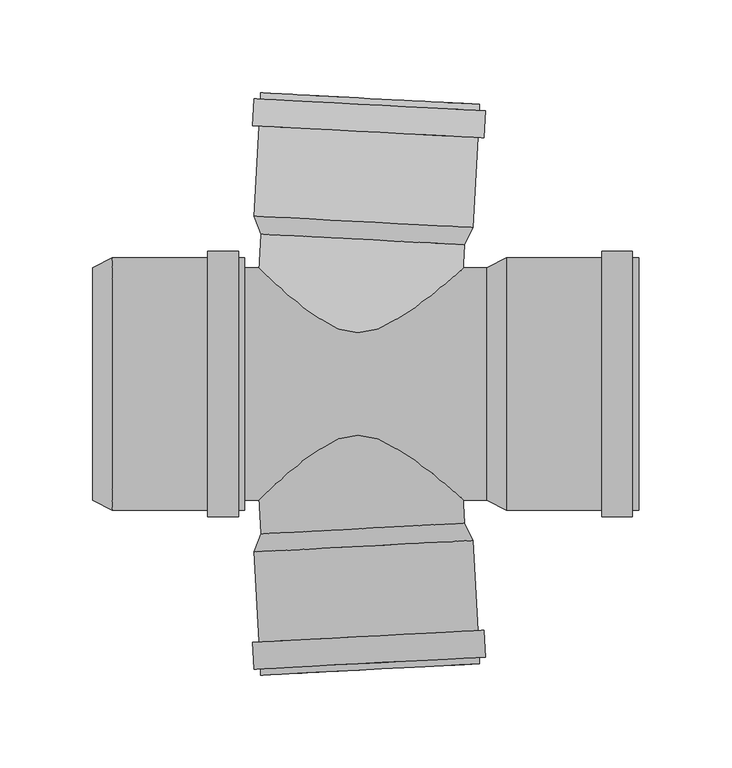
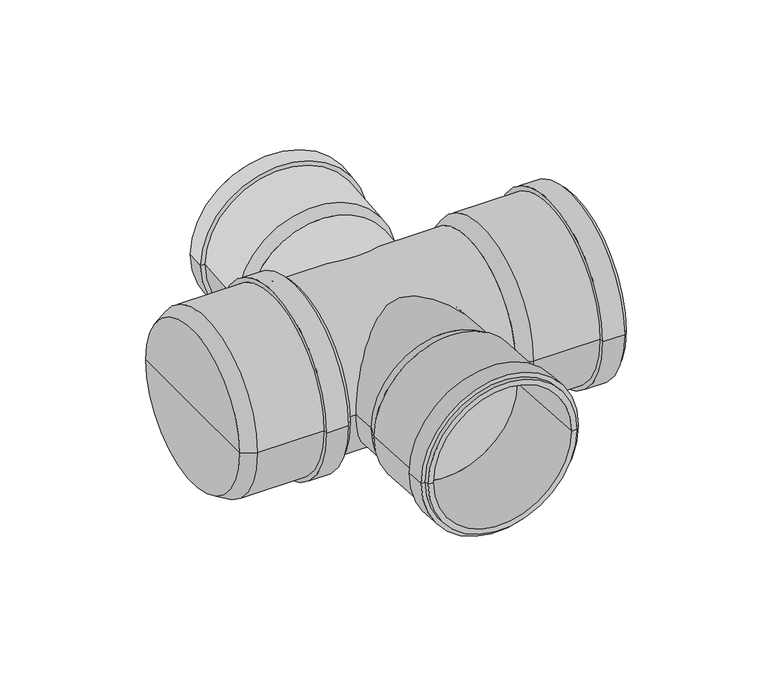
"""IFC4 building model written with IfcOpenShell, lengths in millimetres: pipe fitting geometry, pf_HTDA : pf_HTDA."""

from ifc_helpers import new_model, si_unit, point, frame, origin, origin_2d, place, context, project, spatial, polyline, circle_curve, trimmed, segment, composite_curve, outline, extrude, source, transform, mapped, element, save
from ifc_brep_helpers import plane_surface, cylinder_surface, revolved_surface, advanced_brep


def pipe_fitting_54cbae7a(model_context):
    return source(origin(), model_context, "Body", "SolidModel", [
        advanced_brep(
        [(59.006829, 75.0146261, 0.0), (-50.8424198, 80.7715813, 0.0), (-54.4396093, 90.4731393, 0.0), (63.5984017, 84.2870293, 0.0), (4.0822046, 77.8931037, 0.0), (67.0787428, 150.6958933, 0.0), (-50.9592682, 156.8820034, 0.0), (-46.8648872, 156.6674259, 0.0), (62.9843617, 150.9104708, 0.0), (66.9008005, 147.3005529, 0.0), (-51.1372105, 153.4866629, 0.0), (70.2961409, 147.1226107, 0.0), (-54.5325509, 153.6646052, 0.0), (69.5372696, 132.6424824, 0.0), (-55.2914223, 139.1844769, 0.0), (66.1419291, 132.8204247, 0.0), (-51.8960819, 139.0065347, 0.0), (59.5040206, 84.5016067, 0.0), (-50.3452282, 90.2585619, 0.0), (4.5793962, 87.3800843, 0.0)],
        [
            (0, 1, circle_curve(frame((4.0822046, 77.8931037, 0.0), z_axis=(0.05233595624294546, 0.9986295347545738, 0.0), x_axis=(-0.9986295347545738, 0.05233595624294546, 0.0)), 55.0)),
            (1, 2),
            (2, 3, circle_curve(frame((4.5793962, 87.3800843, 0.0), z_axis=(-0.05233595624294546, -0.9986295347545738, 0.0), x_axis=(-0.9986295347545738, 0.05233595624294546, 0.0)), 59.1)),
            (3, 0),
            (1, 0, circle_curve(frame((4.0822046, 77.8931037, 0.0), z_axis=(0.05233595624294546, 0.9986295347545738, 0.0), x_axis=(-0.9986295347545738, 0.05233595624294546, 0.0)), 55.0)),
            (3, 2, circle_curve(frame((4.5793962, 87.3800843, 0.0), z_axis=(-0.05233595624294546, -0.9986295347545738, 0.0), x_axis=(-0.9986295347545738, 0.05233595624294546, 0.0)), 59.1)),
            (4, 1),
            (0, 4),
            (5, 6, circle_curve(frame((8.0597373, 153.7889484, 0.0), z_axis=(0.05233595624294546, 0.9986295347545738, 0.0), x_axis=(-0.9986295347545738, 0.05233595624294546, 0.0)), 59.1)),
            (6, 7),
            (7, 8, circle_curve(frame((8.0597373, 153.7889484, 0.0), z_axis=(-0.05233595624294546, -0.9986295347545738, 0.0), x_axis=(-0.9986295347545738, 0.05233595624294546, 0.0)), 55.0)),
            (8, 5),
            (6, 5, circle_curve(frame((8.0597373, 153.7889484, 0.0), z_axis=(0.05233595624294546, 0.9986295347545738, 0.0), x_axis=(-0.9986295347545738, 0.05233595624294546, 0.0)), 59.1)),
            (8, 7, circle_curve(frame((8.0597373, 153.7889484, 0.0), z_axis=(-0.05233595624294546, -0.9986295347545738, 0.0), x_axis=(-0.9986295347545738, 0.05233595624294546, 0.0)), 55.0)),
            (9, 10, circle_curve(frame((7.881795, 150.3936079, 0.0), z_axis=(0.05233595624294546, 0.9986295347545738, 0.0), x_axis=(-0.9986295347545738, 0.05233595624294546, 0.0)), 59.1)),
            (10, 6),
            (5, 9),
            (10, 9, circle_curve(frame((7.881795, 150.3936079, 0.0), z_axis=(0.05233595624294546, 0.9986295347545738, 0.0), x_axis=(-0.9986295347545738, 0.05233595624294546, 0.0)), 59.1)),
            (11, 12, circle_curve(frame((7.881795, 150.3936079, 0.0), z_axis=(0.05233595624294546, 0.9986295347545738, 0.0), x_axis=(-0.9986295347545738, 0.05233595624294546, 0.0)), 62.5)),
            (12, 10),
            (9, 11),
            (12, 11, circle_curve(frame((7.881795, 150.3936079, 0.0), z_axis=(0.05233595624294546, 0.9986295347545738, 0.0), x_axis=(-0.9986295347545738, 0.05233595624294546, 0.0)), 62.5)),
            (13, 14, circle_curve(frame((7.1229236, 135.9134797, 0.0), z_axis=(0.05233595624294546, 0.9986295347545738, 0.0), x_axis=(-0.9986295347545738, 0.05233595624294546, 0.0)), 62.5)),
            (14, 12),
            (11, 13),
            (14, 13, circle_curve(frame((7.1229236, 135.9134797, 0.0), z_axis=(0.05233595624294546, 0.9986295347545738, 0.0), x_axis=(-0.9986295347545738, 0.05233595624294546, 0.0)), 62.5)),
            (15, 16, circle_curve(frame((7.1229236, 135.9134797, 0.0), z_axis=(0.05233595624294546, 0.9986295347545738, 0.0), x_axis=(-0.9986295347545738, 0.05233595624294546, 0.0)), 59.1)),
            (16, 14),
            (13, 15),
            (16, 15, circle_curve(frame((7.1229236, 135.9134797, 0.0), z_axis=(0.05233595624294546, 0.9986295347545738, 0.0), x_axis=(-0.9986295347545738, 0.05233595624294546, 0.0)), 59.1)),
            (2, 16),
            (15, 3),
            (17, 18, circle_curve(frame((4.5793962, 87.3800843, 0.0), z_axis=(0.05233595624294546, 0.9986295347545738, 0.0), x_axis=(-0.9986295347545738, 0.05233595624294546, 0.0)), 55.0)),
            (18, 19),
            (19, 17),
            (18, 17, circle_curve(frame((4.5793962, 87.3800843, 0.0), z_axis=(0.05233595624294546, 0.9986295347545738, 0.0), x_axis=(-0.9986295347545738, 0.05233595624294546, 0.0)), 55.0)),
            (7, 18),
            (17, 8),
        ],
        [
            revolved_surface(polyline([(-54.4396093, 90.4731393, 0.0), (-50.8424198, 80.7715813, 0.0)]), (4.0822046, 77.8931037, 0.0), (-0.05233595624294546, -0.9986295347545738, 0.0)),
            plane_surface(frame((4.0822046, 77.8931037, 0.0), z_axis=(-0.05233595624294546, -0.9986295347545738, 0.0), x_axis=(-0.9986295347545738, 0.05233595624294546, 0.0))),
            plane_surface(frame((8.0597373, 153.7889484, 0.0), z_axis=(0.05233595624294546, 0.9986295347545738, 0.0), x_axis=(-0.9986295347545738, 0.05233595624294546, 0.0))),
            cylinder_surface(frame((4.0822046, 77.8931037, 0.0), z_axis=(-0.05233595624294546, -0.9986295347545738, 0.0), x_axis=(-0.9986295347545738, 0.05233595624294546, 0.0)), 59.1),
            plane_surface(frame((7.881795, 150.3936079, 0.0), z_axis=(0.05233595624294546, 0.9986295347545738, 0.0), x_axis=(-0.9986295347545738, 0.05233595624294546, 0.0))),
            cylinder_surface(frame((4.0822046, 77.8931037, 0.0), z_axis=(-0.05233595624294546, -0.9986295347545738, 0.0), x_axis=(-0.9986295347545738, 0.05233595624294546, 0.0)), 62.5),
            plane_surface(frame((7.1229236, 135.9134797, 0.0), z_axis=(-0.05233595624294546, -0.9986295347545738, 0.0), x_axis=(-0.9986295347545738, 0.05233595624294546, 0.0))),
            plane_surface(frame((4.5793962, 87.3800843, 0.0), z_axis=(0.05233595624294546, 0.9986295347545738, 0.0), x_axis=(-0.9986295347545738, 0.05233595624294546, 0.0))),
            revolved_surface(polyline([(-50.34522822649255, 90.25856188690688, 0.0), (-46.86488713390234, 156.66742599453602, 0.0)]), (4.0822046, 77.8931037, 0.0), (-0.05233595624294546, -0.9986295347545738, 0.0)),
        ],
        [
            (0, [[1, 2, 3, 4]]),
            (0, [[5, -4, 6, -2]]),
            (1, [[7, -1, 8]]),
            (1, [[-8, -5, -7]]),
            (2, [[9, 10, 11, 12]]),
            (2, [[13, -12, 14, -10]]),
            (3, [[15, 16, -9, 17]]),
            (3, [[18, -17, -13, -16]]),
            (4, [[19, 20, -15, 21]]),
            (4, [[22, -21, -18, -20]]),
            (5, [[23, 24, -19, 25]]),
            (5, [[26, -25, -22, -24]]),
            (6, [[27, 28, -23, 29]]),
            (6, [[30, -29, -26, -28]]),
            (3, [[-3, 31, -27, 32]]),
            (3, [[-6, -32, -30, -31]]),
            (7, [[33, 34, 35]]),
            (7, [[36, -35, -34]]),
            (8, [[-11, 37, -33, 38]]),
            (8, [[-14, -38, -36, -37]]),
        ],
    ),
        advanced_brep(
        [(-50.8424198, -80.7715813, 0.0), (59.006829, -75.0146261, 0.0), (63.5984017, -84.2870293, 0.0), (-54.4396093, -90.4731393, 0.0), (4.0822046, -77.8931037, 0.0), (-50.9592682, -156.8820034, 0.0), (67.0787428, -150.6958933, 0.0), (62.9843617, -150.9104708, 0.0), (-46.8648872, -156.6674259, 0.0), (-51.1372105, -153.4866629, 0.0), (66.9008005, -147.3005529, 0.0), (-54.5325509, -153.6646052, 0.0), (70.2961409, -147.1226107, 0.0), (-55.2914223, -139.1844769, 0.0), (69.5372696, -132.6424824, 0.0), (-51.8960819, -139.0065347, 0.0), (66.1419291, -132.8204247, 0.0), (-50.3452282, -90.2585619, 0.0), (59.5040206, -84.5016067, 0.0), (4.5793962, -87.3800843, 0.0)],
        [
            (0, 1, circle_curve(frame((4.0822046, -77.8931037, 0.0), z_axis=(0.05233595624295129, -0.9986295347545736, 0.0), x_axis=(0.9986295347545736, 0.05233595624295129, 0.0)), 55.0)),
            (1, 2),
            (2, 3, circle_curve(frame((4.5793962, -87.3800843, 0.0), z_axis=(-0.05233595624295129, 0.9986295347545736, 0.0), x_axis=(0.9986295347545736, 0.05233595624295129, 0.0)), 59.1)),
            (3, 0),
            (1, 0, circle_curve(frame((4.0822046, -77.8931037, 0.0), z_axis=(0.05233595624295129, -0.9986295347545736, 0.0), x_axis=(0.9986295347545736, 0.05233595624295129, 0.0)), 55.0)),
            (3, 2, circle_curve(frame((4.5793962, -87.3800843, 0.0), z_axis=(-0.05233595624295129, 0.9986295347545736, 0.0), x_axis=(0.9986295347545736, 0.05233595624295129, 0.0)), 59.1)),
            (4, 1),
            (0, 4),
            (5, 6, circle_curve(frame((8.0597373, -153.7889484, 0.0), z_axis=(0.05233595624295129, -0.9986295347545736, 0.0), x_axis=(0.9986295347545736, 0.05233595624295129, 0.0)), 59.1)),
            (6, 7),
            (7, 8, circle_curve(frame((8.0597373, -153.7889484, 0.0), z_axis=(-0.05233595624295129, 0.9986295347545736, 0.0), x_axis=(0.9986295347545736, 0.05233595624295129, 0.0)), 55.0)),
            (8, 5),
            (6, 5, circle_curve(frame((8.0597373, -153.7889484, 0.0), z_axis=(0.05233595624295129, -0.9986295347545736, 0.0), x_axis=(0.9986295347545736, 0.05233595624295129, 0.0)), 59.1)),
            (8, 7, circle_curve(frame((8.0597373, -153.7889484, 0.0), z_axis=(-0.05233595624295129, 0.9986295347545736, 0.0), x_axis=(0.9986295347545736, 0.05233595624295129, 0.0)), 55.0)),
            (9, 10, circle_curve(frame((7.881795, -150.3936079, 0.0), z_axis=(0.05233595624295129, -0.9986295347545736, 0.0), x_axis=(0.9986295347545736, 0.05233595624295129, 0.0)), 59.1)),
            (10, 6),
            (5, 9),
            (10, 9, circle_curve(frame((7.881795, -150.3936079, 0.0), z_axis=(0.05233595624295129, -0.9986295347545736, 0.0), x_axis=(0.9986295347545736, 0.05233595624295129, 0.0)), 59.1)),
            (11, 12, circle_curve(frame((7.881795, -150.3936079, 0.0), z_axis=(0.05233595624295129, -0.9986295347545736, 0.0), x_axis=(0.9986295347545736, 0.05233595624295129, 0.0)), 62.5)),
            (12, 10),
            (9, 11),
            (12, 11, circle_curve(frame((7.881795, -150.3936079, 0.0), z_axis=(0.05233595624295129, -0.9986295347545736, 0.0), x_axis=(0.9986295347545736, 0.05233595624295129, 0.0)), 62.5)),
            (13, 14, circle_curve(frame((7.1229236, -135.9134797, 0.0), z_axis=(0.05233595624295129, -0.9986295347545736, 0.0), x_axis=(0.9986295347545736, 0.05233595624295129, 0.0)), 62.5)),
            (14, 12),
            (11, 13),
            (14, 13, circle_curve(frame((7.1229236, -135.9134797, 0.0), z_axis=(0.05233595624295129, -0.9986295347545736, 0.0), x_axis=(0.9986295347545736, 0.05233595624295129, 0.0)), 62.5)),
            (15, 16, circle_curve(frame((7.1229236, -135.9134797, 0.0), z_axis=(0.05233595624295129, -0.9986295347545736, 0.0), x_axis=(0.9986295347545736, 0.05233595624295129, 0.0)), 59.1)),
            (16, 14),
            (13, 15),
            (16, 15, circle_curve(frame((7.1229236, -135.9134797, 0.0), z_axis=(0.05233595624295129, -0.9986295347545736, 0.0), x_axis=(0.9986295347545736, 0.05233595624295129, 0.0)), 59.1)),
            (2, 16),
            (15, 3),
            (17, 18, circle_curve(frame((4.5793962, -87.3800843, 0.0), z_axis=(0.05233595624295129, -0.9986295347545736, 0.0), x_axis=(0.9986295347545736, 0.05233595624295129, 0.0)), 55.0)),
            (18, 19),
            (19, 17),
            (18, 17, circle_curve(frame((4.5793962, -87.3800843, 0.0), z_axis=(0.05233595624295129, -0.9986295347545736, 0.0), x_axis=(0.9986295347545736, 0.05233595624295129, 0.0)), 55.0)),
            (7, 18),
            (17, 8),
        ],
        [
            revolved_surface(polyline([(63.5984017, -84.2870293, 0.0), (59.006829, -75.0146261, 0.0)]), (4.0822046, -77.8931037, 0.0), (-0.05233595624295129, 0.9986295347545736, 0.0)),
            plane_surface(frame((4.0822046, -77.8931037, 0.0), z_axis=(-0.05233595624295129, 0.9986295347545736, 0.0), x_axis=(0.9986295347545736, 0.05233595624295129, 0.0))),
            plane_surface(frame((8.0597373, -153.7889484, 0.0), z_axis=(0.05233595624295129, -0.9986295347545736, 0.0), x_axis=(0.9986295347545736, 0.05233595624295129, 0.0))),
            cylinder_surface(frame((4.0822046, -77.8931037, 0.0), z_axis=(-0.05233595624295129, 0.9986295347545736, 0.0), x_axis=(0.9986295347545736, 0.05233595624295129, 0.0)), 59.1),
            plane_surface(frame((7.881795, -150.3936079, 0.0), z_axis=(0.05233595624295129, -0.9986295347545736, 0.0), x_axis=(0.9986295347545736, 0.05233595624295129, 0.0))),
            cylinder_surface(frame((4.0822046, -77.8931037, 0.0), z_axis=(-0.05233595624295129, 0.9986295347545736, 0.0), x_axis=(0.9986295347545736, 0.05233595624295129, 0.0)), 62.5),
            plane_surface(frame((7.1229236, -135.9134797, 0.0), z_axis=(-0.05233595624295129, 0.9986295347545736, 0.0), x_axis=(0.9986295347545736, 0.05233595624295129, 0.0))),
            plane_surface(frame((4.5793962, -87.3800843, 0.0), z_axis=(0.05233595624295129, -0.9986295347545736, 0.0), x_axis=(0.9986295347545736, 0.05233595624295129, 0.0))),
            revolved_surface(polyline([(59.50402059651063, -84.50160670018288, 0.0), (62.98436168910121, -150.9104708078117, 0.0)]), (4.0822046, -77.8931037, 0.0), (-0.05233595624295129, 0.9986295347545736, 0.0)),
        ],
        [
            (0, [[1, 2, 3, 4]]),
            (0, [[5, -4, 6, -2]]),
            (1, [[7, -1, 8]]),
            (1, [[-8, -5, -7]]),
            (2, [[9, 10, 11, 12]]),
            (2, [[13, -12, 14, -10]]),
            (3, [[15, 16, -9, 17]]),
            (3, [[18, -17, -13, -16]]),
            (4, [[19, 20, -15, 21]]),
            (4, [[22, -21, -18, -20]]),
            (5, [[23, 24, -19, 25]]),
            (5, [[26, -25, -22, -24]]),
            (6, [[27, 28, -23, 29]]),
            (6, [[30, -29, -26, -28]]),
            (3, [[-3, 31, -27, 32]]),
            (3, [[-6, -32, -30, -31]]),
            (7, [[33, 34, 35]]),
            (7, [[36, -35, -34]]),
            (8, [[-11, 37, -33, 38]]),
            (8, [[-14, -38, -36, -37]]),
        ],
    ),
        advanced_brep(
        [(70.9, -62.5, 0.0), (70.9, 62.5, 0.0), (81.4, 68.1, 0.0), (81.4, -68.1, 0.0), (70.9, 0.0, 0.0), (152.9, -68.1, 0.0), (152.9, 68.1, 0.0), (152.9, 62.5, 0.0), (152.9, -62.5, 0.0), (149.5, -68.1, 0.0), (149.5, 68.1, 0.0), (149.5, -71.5, 0.0), (149.5, 71.5, 0.0), (132.9, -71.5, 0.0), (132.9, 71.5, 0.0), (132.9, -68.1, 0.0), (132.9, 68.1, 0.0), (81.4, -62.5, 0.0), (81.4, 62.5, 0.0), (81.4, 0.0, 0.0)],
        [
            (0, 1, circle_curve(frame((70.9, 0.0, 0.0), z_axis=(1.0, 0.0, 0.0), x_axis=(0.0, 1.0, 0.0)), 62.5)),
            (1, 2),
            (2, 3, circle_curve(frame((81.4, 0.0, 0.0), z_axis=(-1.0, 0.0, 0.0), x_axis=(0.0, 1.0, 0.0)), 68.1)),
            (3, 0),
            (1, 0, circle_curve(frame((70.9, 0.0, 0.0), z_axis=(1.0, 0.0, 0.0), x_axis=(0.0, 1.0, 0.0)), 62.5)),
            (3, 2, circle_curve(frame((81.4, 0.0, 0.0), z_axis=(-1.0, 0.0, 0.0), x_axis=(0.0, 1.0, 0.0)), 68.1)),
            (4, 1),
            (0, 4),
            (5, 6, circle_curve(frame((152.9, 0.0, 0.0), z_axis=(1.0, 0.0, 0.0), x_axis=(0.0, 1.0, 0.0)), 68.1)),
            (6, 7),
            (7, 8, circle_curve(frame((152.9, 0.0, 0.0), z_axis=(-1.0, 0.0, 0.0), x_axis=(0.0, 1.0, 0.0)), 62.5)),
            (8, 5),
            (6, 5, circle_curve(frame((152.9, 0.0, 0.0), z_axis=(1.0, 0.0, 0.0), x_axis=(0.0, 1.0, 0.0)), 68.1)),
            (8, 7, circle_curve(frame((152.9, 0.0, 0.0), z_axis=(-1.0, 0.0, 0.0), x_axis=(0.0, 1.0, 0.0)), 62.5)),
            (9, 10, circle_curve(frame((149.5, 0.0, 0.0), z_axis=(1.0, 0.0, 0.0), x_axis=(0.0, 1.0, 0.0)), 68.1)),
            (10, 6),
            (5, 9),
            (10, 9, circle_curve(frame((149.5, 0.0, 0.0), z_axis=(1.0, 0.0, 0.0), x_axis=(0.0, 1.0, 0.0)), 68.1)),
            (11, 12, circle_curve(frame((149.5, 0.0, 0.0), z_axis=(1.0, 0.0, 0.0), x_axis=(0.0, 1.0, 0.0)), 71.5)),
            (12, 10),
            (9, 11),
            (12, 11, circle_curve(frame((149.5, 0.0, 0.0), z_axis=(1.0, 0.0, 0.0), x_axis=(0.0, 1.0, 0.0)), 71.5)),
            (13, 14, circle_curve(frame((132.9, 0.0, 0.0), z_axis=(1.0, 0.0, 0.0), x_axis=(0.0, 1.0, 0.0)), 71.5)),
            (14, 12),
            (11, 13),
            (14, 13, circle_curve(frame((132.9, 0.0, 0.0), z_axis=(1.0, 0.0, 0.0), x_axis=(0.0, 1.0, 0.0)), 71.5)),
            (15, 16, circle_curve(frame((132.9, 0.0, 0.0), z_axis=(1.0, 0.0, 0.0), x_axis=(0.0, 1.0, 0.0)), 68.1)),
            (16, 14),
            (13, 15),
            (16, 15, circle_curve(frame((132.9, 0.0, 0.0), z_axis=(1.0, 0.0, 0.0), x_axis=(0.0, 1.0, 0.0)), 68.1)),
            (2, 16),
            (15, 3),
            (17, 18, circle_curve(frame((81.4, 0.0, 0.0), z_axis=(1.0, 0.0, 0.0), x_axis=(0.0, 1.0, 0.0)), 62.5)),
            (18, 19),
            (19, 17),
            (18, 17, circle_curve(frame((81.4, 0.0, 0.0), z_axis=(1.0, 0.0, 0.0), x_axis=(0.0, 1.0, 0.0)), 62.5)),
            (7, 18),
            (17, 8),
        ],
        [
            revolved_surface(polyline([(81.4, 68.1, 0.0), (70.9, 62.5, 0.0)]), (70.9, 0.0, 0.0), (-1.0, 0.0, 0.0)),
            plane_surface(frame((70.9, 0.0, 0.0), z_axis=(-1.0, 0.0, 0.0), x_axis=(0.0, 1.0, 0.0))),
            plane_surface(frame((152.9, 0.0, 0.0), z_axis=(1.0, 0.0, 0.0), x_axis=(0.0, 1.0, 0.0))),
            cylinder_surface(frame((70.9, 0.0, 0.0), z_axis=(-1.0, 0.0, 0.0), x_axis=(0.0, 1.0, 0.0)), 68.1),
            plane_surface(frame((149.5, 0.0, 0.0), z_axis=(1.0, 0.0, 0.0), x_axis=(0.0, 1.0, 0.0))),
            cylinder_surface(frame((70.9, 0.0, 0.0), z_axis=(-1.0, 0.0, 0.0), x_axis=(0.0, 1.0, 0.0)), 71.5),
            plane_surface(frame((132.9, 0.0, 0.0), z_axis=(-1.0, 0.0, 0.0), x_axis=(0.0, 1.0, 0.0))),
            plane_surface(frame((81.4, 0.0, 0.0), z_axis=(1.0, 0.0, 0.0), x_axis=(0.0, 1.0, 0.0))),
            revolved_surface(polyline([(81.4, 62.5, 0.0), (152.9, 62.5, 0.0)]), (70.9, 0.0, 0.0), (-1.0, 0.0, 0.0)),
        ],
        [
            (0, [[1, 2, 3, 4]]),
            (0, [[5, -4, 6, -2]]),
            (1, [[7, -1, 8]]),
            (1, [[-8, -5, -7]]),
            (2, [[9, 10, 11, 12]]),
            (2, [[13, -12, 14, -10]]),
            (3, [[15, 16, -9, 17]]),
            (3, [[18, -17, -13, -16]]),
            (4, [[19, 20, -15, 21]]),
            (4, [[22, -21, -18, -20]]),
            (5, [[23, 24, -19, 25]]),
            (5, [[26, -25, -22, -24]]),
            (6, [[27, 28, -23, 29]]),
            (6, [[30, -29, -26, -28]]),
            (3, [[-3, 31, -27, 32]]),
            (3, [[-6, -32, -30, -31]]),
            (7, [[33, 34, 35]]),
            (7, [[36, -35, -34]]),
            (8, [[-11, 37, -33, 38]]),
            (8, [[-14, -38, -36, -37]]),
        ],
    ),
        advanced_brep(
        [(-141.5, -62.5, 0.0), (-141.5, 62.5, 0.0), (-131.0, 68.1, 0.0), (-131.0, -68.1, 0.0), (-141.5, 0.0, 0.0), (-59.5, -68.1, 0.0), (-59.5, 68.1, 0.0), (-59.5, 62.5, 0.0), (-59.5, -62.5, 0.0), (-62.9, -68.1, 0.0), (-62.9, 68.1, 0.0), (-62.9, -71.5, 0.0), (-62.9, 71.5, 0.0), (-79.5, -71.5, 0.0), (-79.5, 71.5, 0.0), (-79.5, -68.1, 0.0), (-79.5, 68.1, 0.0), (-131.0, -62.5, 0.0), (-131.0, 62.5, 0.0), (-131.0, 0.0, 0.0)],
        [
            (0, 1, circle_curve(frame((-141.5, 0.0, 0.0), z_axis=(1.0, 0.0, 0.0), x_axis=(0.0, 1.0, 0.0)), 62.5)),
            (1, 2),
            (2, 3, circle_curve(frame((-131.0, 0.0, 0.0), z_axis=(-1.0, 0.0, 0.0), x_axis=(0.0, 1.0, 0.0)), 68.1)),
            (3, 0),
            (1, 0, circle_curve(frame((-141.5, 0.0, 0.0), z_axis=(1.0, 0.0, 0.0), x_axis=(0.0, 1.0, 0.0)), 62.5)),
            (3, 2, circle_curve(frame((-131.0, 0.0, 0.0), z_axis=(-1.0, 0.0, 0.0), x_axis=(0.0, 1.0, 0.0)), 68.1)),
            (4, 1),
            (0, 4),
            (5, 6, circle_curve(frame((-59.5, 0.0, 0.0), z_axis=(1.0, 0.0, 0.0), x_axis=(0.0, 1.0, 0.0)), 68.1)),
            (6, 7),
            (7, 8, circle_curve(frame((-59.5, 0.0, 0.0), z_axis=(-1.0, 0.0, 0.0), x_axis=(0.0, 1.0, 0.0)), 62.5)),
            (8, 5),
            (6, 5, circle_curve(frame((-59.5, 0.0, 0.0), z_axis=(1.0, 0.0, 0.0), x_axis=(0.0, 1.0, 0.0)), 68.1)),
            (8, 7, circle_curve(frame((-59.5, 0.0, 0.0), z_axis=(-1.0, 0.0, 0.0), x_axis=(0.0, 1.0, 0.0)), 62.5)),
            (9, 10, circle_curve(frame((-62.9, 0.0, 0.0), z_axis=(1.0, 0.0, 0.0), x_axis=(0.0, 1.0, 0.0)), 68.1)),
            (10, 6),
            (5, 9),
            (10, 9, circle_curve(frame((-62.9, 0.0, 0.0), z_axis=(1.0, 0.0, 0.0), x_axis=(0.0, 1.0, 0.0)), 68.1)),
            (11, 12, circle_curve(frame((-62.9, 0.0, 0.0), z_axis=(1.0, 0.0, 0.0), x_axis=(0.0, 1.0, 0.0)), 71.5)),
            (12, 10),
            (9, 11),
            (12, 11, circle_curve(frame((-62.9, 0.0, 0.0), z_axis=(1.0, 0.0, 0.0), x_axis=(0.0, 1.0, 0.0)), 71.5)),
            (13, 14, circle_curve(frame((-79.5, 0.0, 0.0), z_axis=(1.0, 0.0, 0.0), x_axis=(0.0, 1.0, 0.0)), 71.5)),
            (14, 12),
            (11, 13),
            (14, 13, circle_curve(frame((-79.5, 0.0, 0.0), z_axis=(1.0, 0.0, 0.0), x_axis=(0.0, 1.0, 0.0)), 71.5)),
            (15, 16, circle_curve(frame((-79.5, 0.0, 0.0), z_axis=(1.0, 0.0, 0.0), x_axis=(0.0, 1.0, 0.0)), 68.1)),
            (16, 14),
            (13, 15),
            (16, 15, circle_curve(frame((-79.5, 0.0, 0.0), z_axis=(1.0, 0.0, 0.0), x_axis=(0.0, 1.0, 0.0)), 68.1)),
            (2, 16),
            (15, 3),
            (17, 18, circle_curve(frame((-131.0, 0.0, 0.0), z_axis=(1.0, 0.0, 0.0), x_axis=(0.0, 1.0, 0.0)), 62.5)),
            (18, 19),
            (19, 17),
            (18, 17, circle_curve(frame((-131.0, 0.0, 0.0), z_axis=(1.0, 0.0, 0.0), x_axis=(0.0, 1.0, 0.0)), 62.5)),
            (7, 18),
            (17, 8),
        ],
        [
            revolved_surface(polyline([(-131.0, 68.1, 0.0), (-141.5, 62.5, 0.0)]), (-141.5, 0.0, 0.0), (-1.0, 0.0, 0.0)),
            plane_surface(frame((-141.5, 0.0, 0.0), z_axis=(-1.0, 0.0, 0.0), x_axis=(0.0, 1.0, 0.0))),
            plane_surface(frame((-59.5, 0.0, 0.0), z_axis=(1.0, 0.0, 0.0), x_axis=(0.0, 1.0, 0.0))),
            cylinder_surface(frame((-141.5, 0.0, 0.0), z_axis=(-1.0, 0.0, 0.0), x_axis=(0.0, 1.0, 0.0)), 68.1),
            plane_surface(frame((-62.9, 0.0, 0.0), z_axis=(1.0, 0.0, 0.0), x_axis=(0.0, 1.0, 0.0))),
            cylinder_surface(frame((-141.5, 0.0, 0.0), z_axis=(-1.0, 0.0, 0.0), x_axis=(0.0, 1.0, 0.0)), 71.5),
            plane_surface(frame((-79.5, 0.0, 0.0), z_axis=(-1.0, 0.0, 0.0), x_axis=(0.0, 1.0, 0.0))),
            plane_surface(frame((-131.0, 0.0, 0.0), z_axis=(1.0, 0.0, 0.0), x_axis=(0.0, 1.0, 0.0))),
            revolved_surface(polyline([(-131.0, 62.5, 0.0), (-59.5, 62.5, 0.0)]), (-141.5, 0.0, 0.0), (-1.0, 0.0, 0.0)),
        ],
        [
            (0, [[1, 2, 3, 4]]),
            (0, [[5, -4, 6, -2]]),
            (1, [[7, -1, 8]]),
            (1, [[-8, -5, -7]]),
            (2, [[9, 10, 11, 12]]),
            (2, [[13, -12, 14, -10]]),
            (3, [[15, 16, -9, 17]]),
            (3, [[18, -17, -13, -16]]),
            (4, [[19, 20, -15, 21]]),
            (4, [[22, -21, -18, -20]]),
            (5, [[23, 24, -19, 25]]),
            (5, [[26, -25, -22, -24]]),
            (6, [[27, 28, -23, 29]]),
            (6, [[30, -29, -26, -28]]),
            (3, [[-3, 31, -27, 32]]),
            (3, [[-6, -32, -30, -31]]),
            (7, [[33, 34, 35]]),
            (7, [[36, -35, -34]]),
            (8, [[-11, 37, -33, 38]]),
            (8, [[-14, -38, -36, -37]]),
        ],
    ),
        extrude(outline(composite_curve([segment(trimmed(circle_curve(origin_2d(), 55.0), [point((0.0, 55.0))], [point((0.0, -55.0))], False, "CARTESIAN"), True, "CONTINUOUS"), segment(trimmed(circle_curve(origin_2d(), 55.0), [point((0.0, -55.0))], [point((0.0, 55.0))], False, "CARTESIAN"), True, "CONTINUOUS")], self_intersect=False)), frame((0.0, 0.0, 0.0), z_axis=(0.052335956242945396, 0.9986295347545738, 0.0), x_axis=(0.0, 0.0, 1.0)), (0.0, 0.0, 1.0), 78.0),
        extrude(outline(composite_curve([segment(trimmed(circle_curve(origin_2d(), 55.0), [point((0.0, -55.0))], [point((0.0, 55.0))], False, "CARTESIAN"), True, "CONTINUOUS"), segment(trimmed(circle_curve(origin_2d(), 55.0), [point((0.0, 55.0))], [point((0.0, -55.0))], False, "CARTESIAN"), True, "CONTINUOUS")], self_intersect=False)), frame((4.0822046, -77.8931037, 0.0), z_axis=(-0.05233595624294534, 0.9986295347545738, 0.0), x_axis=(0.0, 0.0, 1.0)), (0.0, 0.0, 1.0), 78.0),
        extrude(outline(composite_curve([segment(trimmed(circle_curve(origin_2d(), 62.5), [point((-62.5, 0.0))], [point((62.5, 0.0))], False, "CARTESIAN"), True, "CONTINUOUS"), segment(trimmed(circle_curve(origin_2d(), 62.5), [point((62.5, 0.0))], [point((-62.5, 0.0))], False, "CARTESIAN"), True, "CONTINUOUS")], self_intersect=False)), frame((-131.0, 0.0, 0.0), z_axis=(1.0, 0.0, 0.0), x_axis=(0.0, 1.0, 0.0)), (0.0, 0.0, 1.0), 201.9),
    ])


if __name__ == "__main__":
    model = new_model("IFC4")
    model_context = context("Model", 3, world=origin())
    ifc_project = project(units=[si_unit("LENGTHUNIT", "METRE", prefix="MILLI")], contexts=[model_context])
    site = spatial("IfcSite", under=ifc_project)
    building = spatial("IfcBuilding", under=site)
    placement = place(None, origin())
    pipe_fitting_shape = pipe_fitting_54cbae7a(model_context)
    element("IfcPipeFitting", 1, ObjectType="pf_HTDA : pf_HTDA", at=placement, inside=building, context=model_context, shape_type="MappedRepresentation", body=[
        mapped(pipe_fitting_shape, transform((0.0, 0.0, 0.0), x_axis=(1.0, 0.0, 0.0), y_axis=(0.0, 1.0, 0.0), z_axis=(0.0, 0.0, 1.0))),
    ])
    save(model, "model.ifc")
